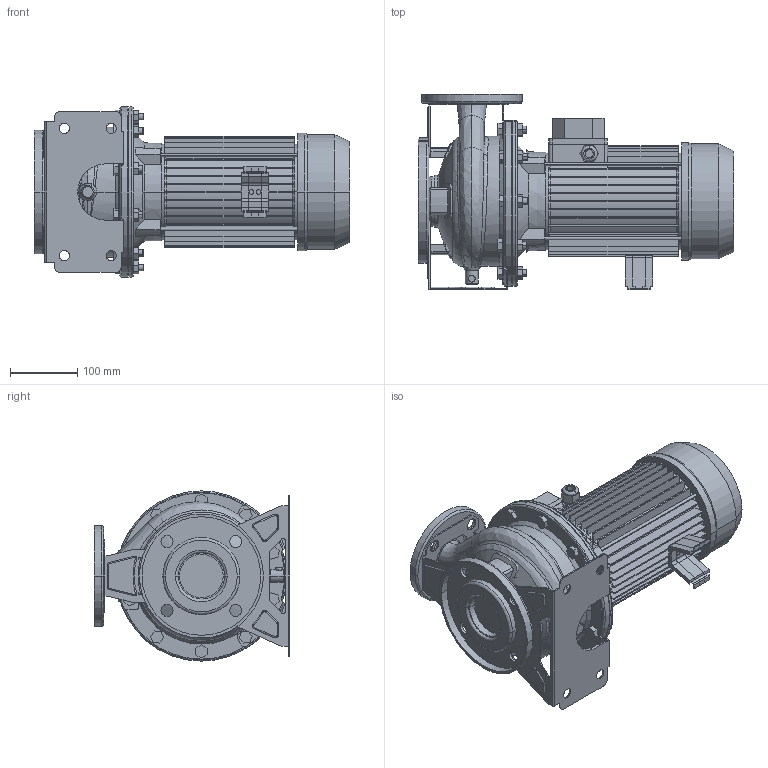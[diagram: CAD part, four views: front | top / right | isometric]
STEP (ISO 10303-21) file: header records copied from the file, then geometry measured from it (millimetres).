
FILE_DESCRIPTION((''),'2;1');
FILE_NAME('3M_40-160_36_IE3_ASM','2016-09-16T',('rosa'),('"Ebara Pumps Europe +39.444.706811"'),'PRO/ENGINEER BY PARAMETRIC TECHNOLOGY CORPORATION, 2012130','PRO/ENGINEER BY PARAMETRIC TECHNOLOGY CORPORATION, 2012130','');
FILE_SCHEMA(('AUTOMOTIVE_DESIGN { 1 0 10303 214 1 1 1 1 }'));
Length unit declared in the file: millimetre
Products named in the file (11): CORPO_40-160_AF0; ASP_40-160; FLANGIA_DIN_65; MAND_40-160; FLANGIA_DIN_40; BASE_3M_40-160; CORPO_SALDATO_40-160_ASM; SUPPORTO_3M_190_90; MEC_90X160_IE3; SOSTEGNO_72004; 3M_40-160_36_IE3_ASM
Assembly tree (11 placements, depth 3):
  3M_40-160_36_IE3_ASM
    CORPO_SALDATO_40-160_ASM
      CORPO_40-160_AF0
      ASP_40-160
      FLANGIA_DIN_65
      MAND_40-160
      FLANGIA_DIN_40
      BASE_3M_40-160
    SUPPORTO_3M_190_90
    MEC_90X160_IE3
    SOSTEGNO_72004  x2
Bounding box: 471 x 292 x 254 mm (x, y, z)
Volume: 7671806.2 mm3; surface area: 1118013.3 mm2
Topology: 13 solids, 13 shells, 1104 faces, 2818 edges, 1801 vertices
Faces by surface type: plane 580, cylinder 330, cone 94, torus 60, bspline 34, sphere 6
Entity records: 46102 total; most frequent: CARTESIAN_POINT 9274, DIRECTION 5618, ORIENTED_EDGE 5468, PRESENTATION_STYLE_ASSIGNMENT 2746, STYLED_ITEM 2746, CURVE_STYLE 2734, EDGE_CURVE 2734, AXIS2_PLACEMENT_3D 2063
